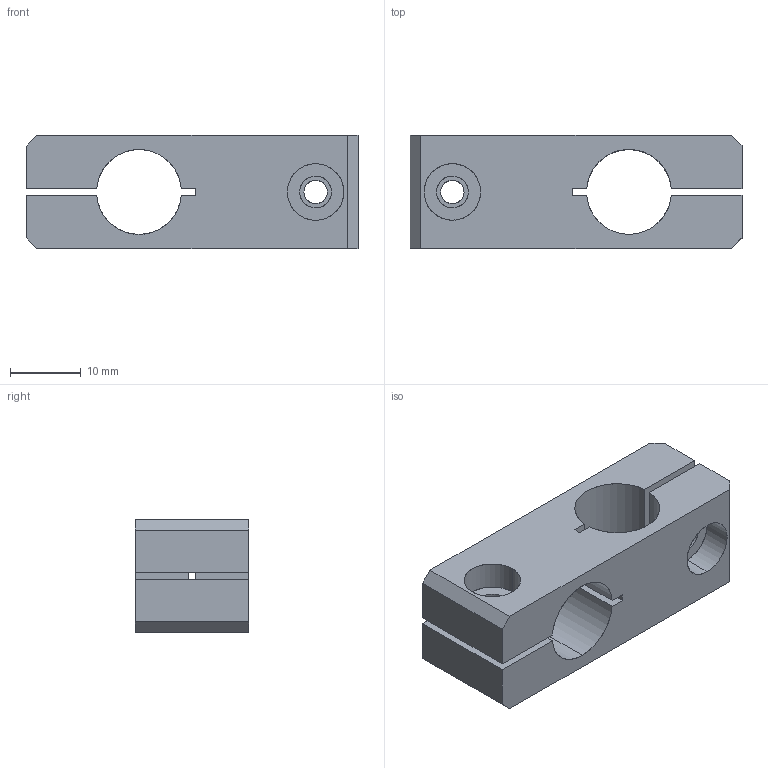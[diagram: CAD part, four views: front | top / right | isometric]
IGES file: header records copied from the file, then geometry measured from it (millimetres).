
Start section: SolidWorks IGES file using analytic representation for surfaces
Global section: file name: C:\Documents and Settings\CAD53\デスクトップ\IGES\N01861-202-1.IGS; native system: SolidWorks 2005 by SolidWorks Corporation; preprocessor: SolidWorks 2005 by SolidWorks Corporation; author: CAD53; date: 070530.101833; units: millimetre
Bounding box: 47 x 16 x 16 mm (x, y, z)
Surface area: 5219 mm2 (no closed solid volume)
Topology: 0 solids, 0 shells, 43 faces, 724 edges, 724 vertices
Faces by surface type: bspline 26, revolution 17
